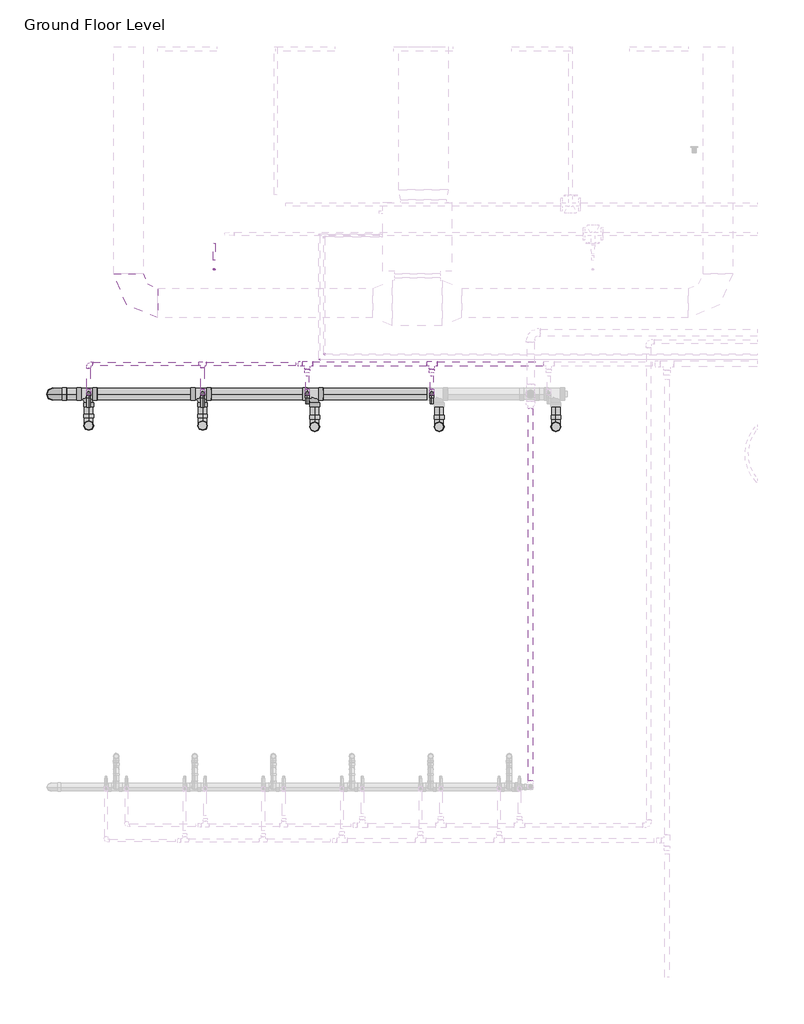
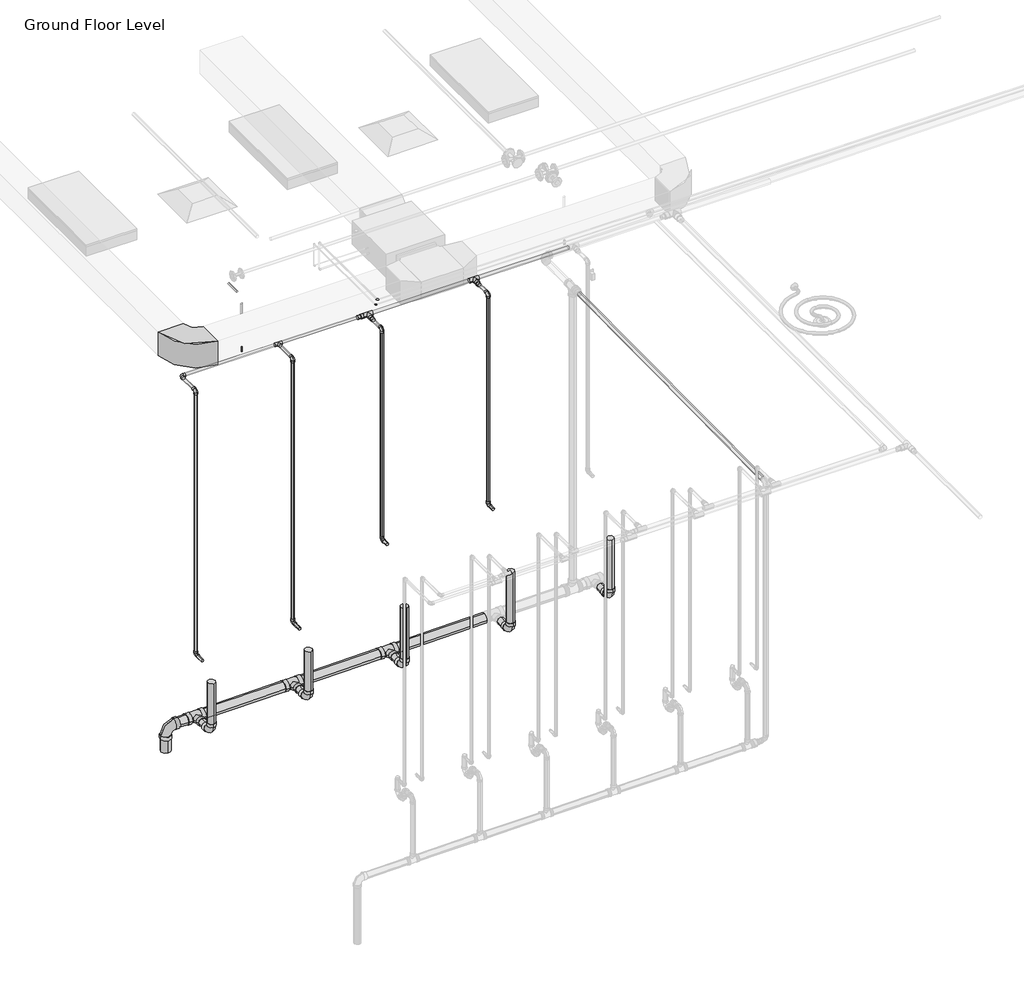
# One storey, part 42 of 74: 34 pipe segments, 26 pipe fittings, 1 duct fitting, 1 fire suppression terminal.
"""IFC4 building model written with IfcOpenShell, lengths in millimetres."""

from ifc_helpers import new_model, si_unit, point, frame, frame_2d, origin, place, context, project, spatial, circle_curve, trimmed, segment, composite_curve, outline, extrude, transform, mapped, element, save
from components import m_rectangular_elbow_radius_1_w_618da153, m_sprinkler_pendent_15_mm_pendent_06fcbd8e, m_bend_pvc_sch_40_dwv_standard_a4b99d37, m_bend_pvc_sch_40_dwv_standard_b7b4a97e, m_elbow_generic_standard_a088f956, m_elbow_generic_standard_2a704253, m_tee_reducing_sanitary_pvc_sch_40_dwv_standard_b49161a9, standard_517a5a8d, standard_ecb2b93d, standard_28db8dab, standard_72b35c3b, standard_08ff6011, standard_d0d0b892

model = new_model("IFC4")

# Units and contexts
model_context = context("Model", 3, world=origin())
ifc_project = project(units=[si_unit("LENGTHUNIT", "METRE", prefix="MILLI")], contexts=[model_context])

# Site, building, storey
site = spatial("IfcSite", under=ifc_project)
building = spatial("IfcBuilding", under=site)
storey = spatial("IfcBuildingStorey", under=building, Name="Ground Floor Level", Elevation=900.0)

# Duct fitting
placement = place(None, origin())
m_rectangular_elbow_radius_1_w_shape = m_rectangular_elbow_radius_1_w_618da153(model_context)
element("IfcDuctFitting", 1, ObjectType="M_Rectangular Elbow - Radius : 1 W", at=placement, inside=storey, context=model_context, shape_type="MappedRepresentation", body=[
    mapped(m_rectangular_elbow_radius_1_w_shape, transform((-20937.2327605, 14069.8153534, 4075.2881511), x_axis=(0.0, -1.0, 0.0), y_axis=(1.0, 0.0, 0.0), z_axis=(0.0, 0.0, 1.0))),
])

# Fire suppression terminal
m_sprinkler_pendent_15_mm_pendent_shape = m_sprinkler_pendent_15_mm_pendent_06fcbd8e(model_context)
element("IfcFireSuppressionTerminal", 2, ObjectType="M_Sprinkler - Pendent : 15 mm Pendent", at=placement, inside=storey, context=model_context, shape_type="MappedRepresentation", body=[
    mapped(m_sprinkler_pendent_15_mm_pendent_shape, transform((-20063.6803933, 14412.7243649, 3650.0), x_axis=(1.0, 0.0, 0.0), y_axis=(0.0, 1.0, 0.0), z_axis=(0.0, 0.0, 1.0))),
])

# Pipe fittings
m_bend_pvc_sch_40_dwv_standard_shape = m_bend_pvc_sch_40_dwv_standard_a4b99d37(model_context)
element("IfcPipeFitting", 3, ObjectType="M_Bend - PVC - Sch 40 - DWV : Standard", at=placement, inside=storey, context=model_context, shape_type="MappedRepresentation", body=[
    mapped(m_bend_pvc_sch_40_dwv_standard_shape, transform((-21343.0428538, 12823.8178806, 203.6352174), x_axis=(0.0, 0.0, -1.0), y_axis=(0.0, 1.0, 0.0), z_axis=(1.0, 0.0, 0.0))),
])
element("IfcPipeFitting", 4, ObjectType="M_Bend - PVC - Sch 40 - DWV : Standard", at=placement, inside=storey, context=model_context, shape_type="MappedRepresentation", body=[
    mapped(m_bend_pvc_sch_40_dwv_standard_shape, transform((-20183.0428538, 12823.8178806, 215.2352174), x_axis=(0.0, 0.0, -1.0), y_axis=(0.0, 1.0, 0.0), z_axis=(1.0, 0.0, 0.0))),
])
element("IfcPipeFitting", 5, ObjectType="M_Bend - PVC - Sch 40 - DWV : Standard", at=placement, inside=storey, context=model_context, shape_type="MappedRepresentation", body=[
    mapped(m_bend_pvc_sch_40_dwv_standard_shape, transform((-19043.0428538, 12811.6726561, 226.6352174), x_axis=(0.0, 0.0, -1.0), y_axis=(0.0, 1.0, 0.0), z_axis=(1.0, 0.0, 0.0))),
])
element("IfcPipeFitting", 6, ObjectType="M_Bend - PVC - Sch 40 - DWV : Standard", at=placement, inside=storey, context=model_context, shape_type="MappedRepresentation", body=[
    mapped(m_bend_pvc_sch_40_dwv_standard_shape, transform((-17775.8329095, 12811.6726561, 239.3073168), x_axis=(0.0, 0.0, -1.0), y_axis=(0.0, 1.0, 0.0), z_axis=(1.0, 0.0, 0.0))),
])
element("IfcPipeFitting", 7, ObjectType="M_Bend - PVC - Sch 40 - DWV : Standard", at=placement, inside=storey, context=model_context, shape_type="MappedRepresentation", body=[
    mapped(m_bend_pvc_sch_40_dwv_standard_shape, transform((-16586.4202262, 12811.6726561, 251.2014437), x_axis=(0.0, 0.0, -1.0), y_axis=(0.0, 1.0, 0.0), z_axis=(1.0, 0.0, 0.0))),
])
m_bend_pvc_sch_40_dwv_standard_2_shape = m_bend_pvc_sch_40_dwv_standard_b7b4a97e(model_context)
element("IfcPipeFitting", 8, ObjectType="M_Bend - PVC - Sch 40 - DWV : Standard", at=placement, inside=storey, context=model_context, shape_type="MappedRepresentation", body=[
    mapped(m_bend_pvc_sch_40_dwv_standard_2_shape, transform((-21707.2327605, 13143.7240477, 200.1933183), x_axis=(0.0, 0.0, 1.0), y_axis=(1.0, 0.0, 0.0), z_axis=(0.0, 1.0, 0.0))),
])
m_elbow_generic_standard_shape = m_elbow_generic_standard_a088f956(model_context)
element("IfcPipeFitting", 9, ObjectType="M_Elbow - Generic : Standard", at=placement, inside=storey, context=model_context, shape_type="MappedRepresentation", body=[
    mapped(m_elbow_generic_standard_shape, transform((-18945.3327605, 13545.2153534, 4380.0), x_axis=(0.0, -1.0, 0.0), y_axis=(1.0, 0.0, 0.0), z_axis=(0.0, 0.0, 1.0))),
])
m_elbow_generic_standard_2_shape = m_elbow_generic_standard_2a704253(model_context)
element("IfcPipeFitting", 10, ObjectType="M_Elbow - Generic : Standard", at=placement, inside=storey, context=model_context, shape_type="MappedRepresentation", body=[
    mapped(m_elbow_generic_standard_2_shape, transform((-18995.0192947, 13494.0185138, 4365.0), x_axis=(0.0, -1.0, 0.0), y_axis=(1.0, 0.0, 0.0), z_axis=(0.0, 0.0, 1.0))),
])
m_tee_reducing_sanitary_pvc_sch_40_dwv_standard_shape = m_tee_reducing_sanitary_pvc_sch_40_dwv_standard_b49161a9(model_context)
element("IfcPipeFitting", 11, ObjectType="M_Tee Reducing Sanitary - PVC - Sch 40 - DWV : Standard", at=placement, inside=storey, context=model_context, shape_type="MappedRepresentation", body=[
    mapped(m_tee_reducing_sanitary_pvc_sch_40_dwv_standard_shape, transform((-21343.0428538, 13143.7240477, 203.6352174), x_axis=(0.9999500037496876, 0.0, 0.009999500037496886), y_axis=(0.0, 1.0, 0.0), z_axis=(-0.009999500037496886, 0.0, 0.9999500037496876))),
])
element("IfcPipeFitting", 12, ObjectType="M_Tee Reducing Sanitary - PVC - Sch 40 - DWV : Standard", at=placement, inside=storey, context=model_context, shape_type="MappedRepresentation", body=[
    mapped(m_tee_reducing_sanitary_pvc_sch_40_dwv_standard_shape, transform((-20183.0428538, 13143.7240477, 215.2352174), x_axis=(0.9999500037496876, 0.0, 0.009999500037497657), y_axis=(0.0, 1.0, 0.0), z_axis=(-0.009999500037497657, 0.0, 0.9999500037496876))),
])
element("IfcPipeFitting", 13, ObjectType="M_Tee Reducing Sanitary - PVC - Sch 40 - DWV : Standard", at=placement, inside=storey, context=model_context, shape_type="MappedRepresentation", body=[
    mapped(m_tee_reducing_sanitary_pvc_sch_40_dwv_standard_shape, transform((-19043.0428538, 13143.7240477, 226.6352174), x_axis=(0.9999500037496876, 0.0, 0.009999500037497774), y_axis=(0.0, 1.0000000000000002, 0.0), z_axis=(-0.009999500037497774, 0.0, 0.9999500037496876))),
])
standard_shape = standard_517a5a8d(model_context)
element("IfcPipeFitting", 14, ObjectType="M_Elbow - CPVC - Sch 40 : Standard", at=placement, inside=storey, context=model_context, shape_type="MappedRepresentation", body=[
    mapped(standard_shape, transform((-21343.0428538, 13149.9865561, 4315.0), x_axis=(0.0, 0.0, 1.0), y_axis=(0.0, 1.0, 0.0), z_axis=(-1.0, 0.0, 0.0))),
])
element("IfcPipeFitting", 15, ObjectType="M_Elbow - CPVC - Sch 40 : Standard", at=placement, inside=storey, context=model_context, shape_type="MappedRepresentation", body=[
    mapped(standard_shape, transform((-20183.0428538, 13149.9865561, 4315.0), x_axis=(0.0, 0.0, 1.0), y_axis=(0.0, 1.0, 0.0), z_axis=(-1.0, 0.0, 0.0))),
])
element("IfcPipeFitting", 16, ObjectType="M_Elbow - CPVC - Sch 40 : Standard", at=placement, inside=storey, context=model_context, shape_type="MappedRepresentation", body=[
    mapped(standard_shape, transform((-19116.48162, 13149.9865561, 1655.0), x_axis=(0.0, 1.0, 0.0), y_axis=(0.0, 0.0, 1.0), z_axis=(1.0, 0.0, 0.0))),
])
element("IfcPipeFitting", 17, ObjectType="M_Elbow - CPVC - Sch 40 : Standard", at=placement, inside=storey, context=model_context, shape_type="MappedRepresentation", body=[
    mapped(standard_shape, transform((-19116.48162, 13149.9865561, 4315.0), x_axis=(0.0, 0.0, 1.0), y_axis=(0.0, 1.0, 0.0), z_axis=(-1.0, 0.0, 0.0))),
])
element("IfcPipeFitting", 18, ObjectType="M_Elbow - CPVC - Sch 40 : Standard", at=placement, inside=storey, context=model_context, shape_type="MappedRepresentation", body=[
    mapped(standard_shape, transform((-17849.2716757, 13149.9865561, 4315.0), x_axis=(0.0, 0.0, 1.0), y_axis=(0.0, 1.0, 0.0), z_axis=(-1.0, 0.0, 0.0))),
])
element("IfcPipeFitting", 19, ObjectType="M_Elbow - CPVC - Sch 40 : Standard", at=placement, inside=storey, context=model_context, shape_type="MappedRepresentation", body=[
    mapped(standard_shape, transform((-17849.2716757, 13149.9865561, 1655.0), x_axis=(0.0, 0.0, -1.0), y_axis=(0.0, -1.0, 0.0), z_axis=(-1.0, 0.0, 0.0))),
])
element("IfcPipeFitting", 20, ObjectType="M_Elbow - CPVC - Sch 40 : Standard", at=placement, inside=storey, context=model_context, shape_type="MappedRepresentation", body=[
    mapped(standard_shape, transform((-21343.0428538, 13449.9865561, 4315.0), x_axis=(-1.0, 0.0, 0.0), y_axis=(0.0, -1.0, 0.0), z_axis=(0.0, 0.0, 1.0))),
])
standard_2_shape = standard_ecb2b93d(model_context)
element("IfcPipeFitting", 21, ObjectType="M_Elbow - CPVC - Sch 40 : Standard", at=placement, inside=storey, context=model_context, shape_type="MappedRepresentation", body=[
    mapped(standard_2_shape, transform((-21343.0428538, 13149.9865561, 983.5000035), x_axis=(0.0, 0.9999999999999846, 1.7577295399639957e-07), y_axis=(0.0, -1.7577295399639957e-07, 0.9999999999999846), z_axis=(1.0, 0.0, 0.0))),
])
standard_3_shape = standard_28db8dab(model_context)
element("IfcPipeFitting", 22, ObjectType="M_Elbow - CPVC - Sch 40 : Standard", at=placement, inside=storey, context=model_context, shape_type="MappedRepresentation", body=[
    mapped(standard_3_shape, transform((-20183.0428538, 13149.9865561, 983.4999984), x_axis=(0.0, 0.0, -1.0), y_axis=(0.0, -1.0, 0.0), z_axis=(-1.0, 0.0, 0.0))),
])
standard_4_shape = standard_72b35c3b(model_context)
element("IfcPipeFitting", 23, ObjectType="M_Tee - CPVC - Sch 40 : Standard", at=placement, inside=storey, context=model_context, shape_type="MappedRepresentation", body=[
    mapped(standard_4_shape, transform((-20183.0428538, 13449.9865561, 4315.0), x_axis=(-1.0, 0.0, 0.0), y_axis=(0.0, 1.0, 0.0), z_axis=(0.0, 0.0, -1.0))),
])
standard_5_shape = standard_08ff6011(model_context)
element("IfcPipeFitting", 24, ObjectType="M_Tee - CPVC - Sch 40 : Standard", at=placement, inside=storey, context=model_context, shape_type="MappedRepresentation", body=[
    mapped(standard_5_shape, transform((-19116.48162, 13449.9865561, 4315.0), x_axis=(-1.0, 0.0, 0.0), y_axis=(0.0, 1.0, 0.0), z_axis=(0.0, 0.0, -1.0))),
])
element("IfcPipeFitting", 25, ObjectType="M_Tee - CPVC - Sch 40 : Standard", at=placement, inside=storey, context=model_context, shape_type="MappedRepresentation", body=[
    mapped(standard_5_shape, transform((-17849.2716757, 13449.9865561, 4315.0), x_axis=(-1.0, 0.0, 0.0), y_axis=(0.0, 1.0, 0.0), z_axis=(0.0, 0.0, -1.0))),
])
standard_6_shape = standard_d0d0b892(model_context)
element("IfcPipeFitting", 26, ObjectType="M_Coupling Reducing - CPVC - Sch 40 : Standard", at=placement, inside=storey, context=model_context, shape_type="MappedRepresentation", body=[
    mapped(standard_6_shape, transform((-19116.48162, 13396.0115561, 4315.0), x_axis=(0.0, -1.0, 0.0), y_axis=(1.0, 0.0, 0.0), z_axis=(0.0, 0.0, 1.0))),
])
element("IfcPipeFitting", 27, ObjectType="M_Coupling Reducing - CPVC - Sch 40 : Standard", at=placement, inside=storey, context=model_context, shape_type="MappedRepresentation", body=[
    mapped(standard_6_shape, transform((-17849.2716757, 13396.0115561, 4315.0), x_axis=(0.0, -1.0, 0.0), y_axis=(1.0, 0.0, 0.0), z_axis=(0.0, 0.0, 1.0))),
])
element("IfcPipeFitting", 28, ObjectType="M_Coupling Reducing - CPVC - Sch 40 : Standard", at=placement, inside=storey, context=model_context, shape_type="MappedRepresentation", body=[
    mapped(standard_6_shape, transform((-19170.45662, 13449.9865561, 4315.0), x_axis=(-1.0, 0.0, 0.0), y_axis=(0.0, -1.0, 0.0), z_axis=(0.0, 0.0, 1.0))),
])

# Pipe segments
element("IfcPipeSegment", 29, ObjectType="CPVC", at=placement, inside=storey, context=model_context, shape_type="SweptSolid", body=[
    extrude(outline(composite_curve([segment(trimmed(circle_curve(frame_2d((983.4999789, -21343.0428538)), 16.7005), [point((983.4999789, -21326.3423538))], [point((1000.2004789, -21343.0428538))], False, "CARTESIAN"), True, "CONTINUOUS"), segment(trimmed(circle_curve(frame_2d((983.4999789, -21343.0428538)), 16.7005), [point((1000.2004789, -21343.0428538))], [point((983.4999789, -21359.7433538))], False, "CARTESIAN"), True, "CONTINUOUS"), segment(trimmed(circle_curve(frame_2d((983.4999789, -21343.0428538)), 16.7005), [point((983.4999789, -21359.7433538))], [point((966.7994789, -21343.0428538))], False, "CARTESIAN"), True, "CONTINUOUS"), segment(trimmed(circle_curve(frame_2d((983.4999789, -21343.0428538)), 16.7005), [point((966.7994789, -21343.0428538))], [point((983.4999789, -21326.3423538))], False, "CARTESIAN"), True, "CONTINUOUS")], self_intersect=False)), frame((0.0, 13009.9865561, 0.0), z_axis=(0.0, 1.0, 0.0), x_axis=(0.0, 0.0, 1.0)), (0.0, 0.0, 1.0), 96.7374537),
])
element("IfcPipeSegment", 30, ObjectType="CPVC", at=placement, inside=storey, context=model_context, shape_type="SweptSolid", body=[
    extrude(outline(composite_curve([segment(trimmed(circle_curve(frame_2d((4315.0, -21343.0428538)), 16.7005), [point((4315.0, -21326.3423538))], [point((4331.7005, -21343.0428538))], False, "CARTESIAN"), True, "CONTINUOUS"), segment(trimmed(circle_curve(frame_2d((4315.0, -21343.0428538)), 16.7005), [point((4331.7005, -21343.0428538))], [point((4315.0, -21359.7433538))], False, "CARTESIAN"), True, "CONTINUOUS"), segment(trimmed(circle_curve(frame_2d((4315.0, -21343.0428538)), 16.7005), [point((4315.0, -21359.7433538))], [point((4298.2995, -21343.0428538))], False, "CARTESIAN"), True, "CONTINUOUS"), segment(trimmed(circle_curve(frame_2d((4315.0, -21343.0428538)), 16.7005), [point((4298.2995, -21343.0428538))], [point((4315.0, -21326.3423538))], False, "CARTESIAN"), True, "CONTINUOUS")], self_intersect=False)), frame((0.0, 13193.2491061, 0.0), z_axis=(0.0, 1.0, 0.0), x_axis=(0.0, 0.0, 1.0)), (0.0, 0.0, 1.0), 213.4749),
])
element("IfcPipeSegment", 31, ObjectType="CPVC", at=placement, inside=storey, context=model_context, shape_type="SweptSolid", body=[
    extrude(outline(composite_curve([segment(trimmed(circle_curve(frame_2d((-21343.0428538, 13149.9865561)), 16.7005), [point((-21359.7433538, 13149.9865561))], [point((-21343.0428538, 13166.6870561))], False, "CARTESIAN"), True, "CONTINUOUS"), segment(trimmed(circle_curve(frame_2d((-21343.0428538, 13149.9865561)), 16.7005), [point((-21343.0428538, 13166.6870561))], [point((-21326.3423538, 13149.9865561))], False, "CARTESIAN"), True, "CONTINUOUS"), segment(trimmed(circle_curve(frame_2d((-21343.0428538, 13149.9865561)), 16.7005), [point((-21326.3423538, 13149.9865561))], [point((-21343.0428538, 13133.2860561))], False, "CARTESIAN"), True, "CONTINUOUS"), segment(trimmed(circle_curve(frame_2d((-21343.0428538, 13149.9865561)), 16.7005), [point((-21343.0428538, 13133.2860561))], [point((-21359.7433538, 13149.9865561))], False, "CARTESIAN"), True, "CONTINUOUS")], self_intersect=False)), frame((0.0, 0.0, 1026.7625498), z_axis=(0.0, 0.0, 1.0), x_axis=(1.0, 0.0, 0.0)), (0.0, 0.0, 1.0), 3244.9749002),
])
element("IfcPipeSegment", 32, ObjectType="CPVC", at=placement, inside=storey, context=model_context, shape_type="SweptSolid", body=[
    extrude(outline(composite_curve([segment(trimmed(circle_curve(frame_2d((983.4999924, -20183.0428538)), 16.7005), [point((983.4999924, -20199.7433538))], [point((966.7994924, -20183.0428538))], False, "CARTESIAN"), True, "CONTINUOUS"), segment(trimmed(circle_curve(frame_2d((983.4999924, -20183.0428538)), 16.7005), [point((966.7994924, -20183.0428538))], [point((983.4999924, -20166.3423538))], False, "CARTESIAN"), True, "CONTINUOUS"), segment(trimmed(circle_curve(frame_2d((983.4999924, -20183.0428538)), 16.7005), [point((983.4999924, -20166.3423538))], [point((1000.2004924, -20183.0428538))], False, "CARTESIAN"), True, "CONTINUOUS"), segment(trimmed(circle_curve(frame_2d((983.4999924, -20183.0428538)), 16.7005), [point((1000.2004924, -20183.0428538))], [point((983.4999924, -20199.7433538))], False, "CARTESIAN"), True, "CONTINUOUS")], self_intersect=False)), frame((0.0, 13009.9865561, 0.0), z_axis=(0.0, 1.0, 0.0), x_axis=(0.0, 0.0, 1.0)), (0.0, 0.0, 1.0), 96.7374529),
])
element("IfcPipeSegment", 33, ObjectType="CPVC", at=placement, inside=storey, context=model_context, shape_type="SweptSolid", body=[
    extrude(outline(composite_curve([segment(trimmed(circle_curve(frame_2d((-20183.0428538, 13149.9865561)), 16.7005), [point((-20199.7433538, 13149.9865561))], [point((-20183.0428538, 13166.6870561))], False, "CARTESIAN"), True, "CONTINUOUS"), segment(trimmed(circle_curve(frame_2d((-20183.0428538, 13149.9865561)), 16.7005), [point((-20183.0428538, 13166.6870561))], [point((-20166.3423538, 13149.9865561))], False, "CARTESIAN"), True, "CONTINUOUS"), segment(trimmed(circle_curve(frame_2d((-20183.0428538, 13149.9865561)), 16.7005), [point((-20166.3423538, 13149.9865561))], [point((-20183.0428538, 13133.2860561))], False, "CARTESIAN"), True, "CONTINUOUS"), segment(trimmed(circle_curve(frame_2d((-20183.0428538, 13149.9865561)), 16.7005), [point((-20183.0428538, 13133.2860561))], [point((-20199.7433538, 13149.9865561))], False, "CARTESIAN"), True, "CONTINUOUS")], self_intersect=False)), frame((0.0, 0.0, 1026.7625455), z_axis=(0.0, 0.0, 1.0), x_axis=(1.0, 0.0, 0.0)), (0.0, 0.0, 1.0), 3244.9749045),
])
element("IfcPipeSegment", 34, ObjectType="CPVC", at=placement, inside=storey, context=model_context, shape_type="SweptSolid", body=[
    extrude(outline(composite_curve([segment(trimmed(circle_curve(frame_2d((1655.0, -19116.48162)), 16.7005), [point((1655.0, -19099.78112))], [point((1671.7005, -19116.48162))], False, "CARTESIAN"), True, "CONTINUOUS"), segment(trimmed(circle_curve(frame_2d((1655.0, -19116.48162)), 16.7005), [point((1671.7005, -19116.48162))], [point((1655.0, -19133.18212))], False, "CARTESIAN"), True, "CONTINUOUS"), segment(trimmed(circle_curve(frame_2d((1655.0, -19116.48162)), 16.7005), [point((1655.0, -19133.18212))], [point((1638.2995, -19116.48162))], False, "CARTESIAN"), True, "CONTINUOUS"), segment(trimmed(circle_curve(frame_2d((1655.0, -19116.48162)), 16.7005), [point((1638.2995, -19116.48162))], [point((1655.0, -19099.78112))], False, "CARTESIAN"), True, "CONTINUOUS")], self_intersect=False)), frame((0.0, 13045.2153534, 0.0), z_axis=(0.0, 1.0, 0.0), x_axis=(0.0, 0.0, 1.0)), (0.0, 0.0, 1.0), 61.5086528),
])
element("IfcPipeSegment", 35, ObjectType="CPVC", at=placement, inside=storey, context=model_context, shape_type="SweptSolid", body=[
    extrude(outline(composite_curve([segment(trimmed(circle_curve(frame_2d((-19116.48162, 13149.9865561)), 16.7005), [point((-19133.18212, 13149.9865561))], [point((-19116.48162, 13166.6870561))], False, "CARTESIAN"), True, "CONTINUOUS"), segment(trimmed(circle_curve(frame_2d((-19116.48162, 13149.9865561)), 16.7005), [point((-19116.48162, 13166.6870561))], [point((-19099.78112, 13149.9865561))], False, "CARTESIAN"), True, "CONTINUOUS"), segment(trimmed(circle_curve(frame_2d((-19116.48162, 13149.9865561)), 16.7005), [point((-19099.78112, 13149.9865561))], [point((-19116.48162, 13133.2860561))], False, "CARTESIAN"), True, "CONTINUOUS"), segment(trimmed(circle_curve(frame_2d((-19116.48162, 13149.9865561)), 16.7005), [point((-19116.48162, 13133.2860561))], [point((-19133.18212, 13149.9865561))], False, "CARTESIAN"), True, "CONTINUOUS")], self_intersect=False)), frame((0.0, 0.0, 1698.26255), z_axis=(0.0, 0.0, 1.0), x_axis=(1.0, 0.0, 0.0)), (0.0, 0.0, 1.0), 2573.4749),
])
element("IfcPipeSegment", 36, ObjectType="CPVC", at=placement, inside=storey, context=model_context, shape_type="SweptSolid", body=[
    extrude(outline(composite_curve([segment(trimmed(circle_curve(frame_2d((1655.0, -17849.2716757)), 16.7005), [point((1655.0, -17865.9721757))], [point((1638.2995, -17849.2716757))], False, "CARTESIAN"), True, "CONTINUOUS"), segment(trimmed(circle_curve(frame_2d((1655.0, -17849.2716757)), 16.7005), [point((1638.2995, -17849.2716757))], [point((1655.0, -17832.5711757))], False, "CARTESIAN"), True, "CONTINUOUS"), segment(trimmed(circle_curve(frame_2d((1655.0, -17849.2716757)), 16.7005), [point((1655.0, -17832.5711757))], [point((1671.7005, -17849.2716757))], False, "CARTESIAN"), True, "CONTINUOUS"), segment(trimmed(circle_curve(frame_2d((1655.0, -17849.2716757)), 16.7005), [point((1671.7005, -17849.2716757))], [point((1655.0, -17865.9721757))], False, "CARTESIAN"), True, "CONTINUOUS")], self_intersect=False)), frame((0.0, 13045.2153534, 0.0), z_axis=(0.0, 1.0, 0.0), x_axis=(0.0, 0.0, 1.0)), (0.0, 0.0, 1.0), 61.5086528),
])
element("IfcPipeSegment", 37, ObjectType="CPVC", at=placement, inside=storey, context=model_context, shape_type="SweptSolid", body=[
    extrude(outline(composite_curve([segment(trimmed(circle_curve(frame_2d((-17849.2716757, 13149.9865561)), 16.7005), [point((-17865.9721757, 13149.9865561))], [point((-17849.2716757, 13166.6870561))], False, "CARTESIAN"), True, "CONTINUOUS"), segment(trimmed(circle_curve(frame_2d((-17849.2716757, 13149.9865561)), 16.7005), [point((-17849.2716757, 13166.6870561))], [point((-17832.5711757, 13149.9865561))], False, "CARTESIAN"), True, "CONTINUOUS"), segment(trimmed(circle_curve(frame_2d((-17849.2716757, 13149.9865561)), 16.7005), [point((-17832.5711757, 13149.9865561))], [point((-17849.2716757, 13133.2860561))], False, "CARTESIAN"), True, "CONTINUOUS"), segment(trimmed(circle_curve(frame_2d((-17849.2716757, 13149.9865561)), 16.7005), [point((-17849.2716757, 13133.2860561))], [point((-17865.9721757, 13149.9865561))], False, "CARTESIAN"), True, "CONTINUOUS")], self_intersect=False)), frame((0.0, 0.0, 1698.26255), z_axis=(0.0, 0.0, 1.0), x_axis=(1.0, 0.0, 0.0)), (0.0, 0.0, 1.0), 2573.4749),
])
element("IfcPipeSegment", 38, ObjectType="CPVC", at=placement, inside=storey, context=model_context, shape_type="SweptSolid", body=[
    extrude(outline(composite_curve([segment(trimmed(circle_curve(frame_2d((13449.9865561, 4315.0)), 16.7005), [point((13433.2860561, 4315.0))], [point((13449.9865561, 4331.7005))], False, "CARTESIAN"), True, "CONTINUOUS"), segment(trimmed(circle_curve(frame_2d((13449.9865561, 4315.0)), 16.7005), [point((13449.9865561, 4331.7005))], [point((13466.6870561, 4315.0))], False, "CARTESIAN"), True, "CONTINUOUS"), segment(trimmed(circle_curve(frame_2d((13449.9865561, 4315.0)), 16.7005), [point((13466.6870561, 4315.0))], [point((13449.9865561, 4298.2995))], False, "CARTESIAN"), True, "CONTINUOUS"), segment(trimmed(circle_curve(frame_2d((13449.9865561, 4315.0)), 16.7005), [point((13449.9865561, 4298.2995))], [point((13433.2860561, 4315.0))], False, "CARTESIAN"), True, "CONTINUOUS")], self_intersect=False)), frame((-21299.7803038, 0.0, 0.0), z_axis=(1.0, 0.0, 0.0), x_axis=(0.0, 1.0, 0.0)), (0.0, 0.0, 1.0), 1077.03725),
])
element("IfcPipeSegment", 39, ObjectType="CPVC", at=placement, inside=storey, context=model_context, shape_type="SweptSolid", body=[
    extrude(outline(composite_curve([segment(trimmed(circle_curve(frame_2d((4315.0, -20183.0428538)), 16.7005), [point((4315.0, -20166.3423538))], [point((4331.7005, -20183.0428538))], False, "CARTESIAN"), True, "CONTINUOUS"), segment(trimmed(circle_curve(frame_2d((4315.0, -20183.0428538)), 16.7005), [point((4331.7005, -20183.0428538))], [point((4315.0, -20199.7433538))], False, "CARTESIAN"), True, "CONTINUOUS"), segment(trimmed(circle_curve(frame_2d((4315.0, -20183.0428538)), 16.7005), [point((4315.0, -20199.7433538))], [point((4298.2995, -20183.0428538))], False, "CARTESIAN"), True, "CONTINUOUS"), segment(trimmed(circle_curve(frame_2d((4315.0, -20183.0428538)), 16.7005), [point((4298.2995, -20183.0428538))], [point((4315.0, -20166.3423538))], False, "CARTESIAN"), True, "CONTINUOUS")], self_intersect=False)), frame((0.0, 13193.2491061, 0.0), z_axis=(0.0, 1.0, 0.0), x_axis=(0.0, 0.0, 1.0)), (0.0, 0.0, 1.0), 217.03725),
])
element("IfcPipeSegment", 40, ObjectType="CPVC", at=placement, inside=storey, context=model_context, shape_type="SweptSolid", body=[
    extrude(outline(composite_curve([segment(trimmed(circle_curve(frame_2d((13449.9865561, 4315.0)), 16.7005), [point((13433.2860561, 4315.0))], [point((13449.9865561, 4331.7005))], False, "CARTESIAN"), True, "CONTINUOUS"), segment(trimmed(circle_curve(frame_2d((13449.9865561, 4315.0)), 16.7005), [point((13449.9865561, 4331.7005))], [point((13466.6870561, 4315.0))], False, "CARTESIAN"), True, "CONTINUOUS"), segment(trimmed(circle_curve(frame_2d((13449.9865561, 4315.0)), 16.7005), [point((13466.6870561, 4315.0))], [point((13449.9865561, 4298.2995))], False, "CARTESIAN"), True, "CONTINUOUS"), segment(trimmed(circle_curve(frame_2d((13449.9865561, 4315.0)), 16.7005), [point((13449.9865561, 4298.2995))], [point((13433.2860561, 4315.0))], False, "CARTESIAN"), True, "CONTINUOUS")], self_intersect=False)), frame((-20143.3426538, 0.0, 0.0), z_axis=(1.0, 0.0, 0.0), x_axis=(0.0, 1.0, 0.0)), (0.0, 0.0, 1.0), 906.7671588),
])
element("IfcPipeSegment", 41, ObjectType="CPVC", at=placement, inside=storey, context=model_context, shape_type="SweptSolid", body=[
    extrude(outline(composite_curve([segment(trimmed(circle_curve(frame_2d((4315.0, -19116.48162)), 16.7005), [point((4315.0, -19099.78112))], [point((4331.7005, -19116.48162))], False, "CARTESIAN"), True, "CONTINUOUS"), segment(trimmed(circle_curve(frame_2d((4315.0, -19116.48162)), 16.7005), [point((4331.7005, -19116.48162))], [point((4315.0, -19133.18212))], False, "CARTESIAN"), True, "CONTINUOUS"), segment(trimmed(circle_curve(frame_2d((4315.0, -19116.48162)), 16.7005), [point((4315.0, -19133.18212))], [point((4298.2995, -19116.48162))], False, "CARTESIAN"), True, "CONTINUOUS"), segment(trimmed(circle_curve(frame_2d((4315.0, -19116.48162)), 16.7005), [point((4298.2995, -19116.48162))], [point((4315.0, -19099.78112))], False, "CARTESIAN"), True, "CONTINUOUS")], self_intersect=False)), frame((0.0, 13193.2491061, 0.0), z_axis=(0.0, 1.0, 0.0), x_axis=(0.0, 0.0, 1.0)), (0.0, 0.0, 1.0), 136.643575),
])
element("IfcPipeSegment", 42, ObjectType="CPVC", at=placement, inside=storey, context=model_context, shape_type="SweptSolid", body=[
    extrude(outline(composite_curve([segment(trimmed(circle_curve(frame_2d((13449.9865561, 4315.0)), 21.082), [point((13428.9045561, 4315.0))], [point((13449.9865561, 4336.082))], False, "CARTESIAN"), True, "CONTINUOUS"), segment(trimmed(circle_curve(frame_2d((13449.9865561, 4315.0)), 21.082), [point((13449.9865561, 4336.082))], [point((13471.0685561, 4315.0))], False, "CARTESIAN"), True, "CONTINUOUS"), segment(trimmed(circle_curve(frame_2d((13449.9865561, 4315.0)), 21.082), [point((13471.0685561, 4315.0))], [point((13449.9865561, 4293.918))], False, "CARTESIAN"), True, "CONTINUOUS"), segment(trimmed(circle_curve(frame_2d((13449.9865561, 4315.0)), 21.082), [point((13449.9865561, 4293.918))], [point((13428.9045561, 4315.0))], False, "CARTESIAN"), True, "CONTINUOUS")], self_intersect=False)), frame((-19062.50662, 0.0, 0.0), z_axis=(1.0, 0.0, 0.0), x_axis=(0.0, 1.0, 0.0)), (0.0, 0.0, 1.0), 1159.2599443),
])
element("IfcPipeSegment", 43, ObjectType="CPVC", at=placement, inside=storey, context=model_context, shape_type="SweptSolid", body=[
    extrude(outline(composite_curve([segment(trimmed(circle_curve(frame_2d((4315.0, -17849.2716757)), 16.7005), [point((4315.0, -17832.5711757))], [point((4331.7005, -17849.2716757))], False, "CARTESIAN"), True, "CONTINUOUS"), segment(trimmed(circle_curve(frame_2d((4315.0, -17849.2716757)), 16.7005), [point((4331.7005, -17849.2716757))], [point((4315.0, -17865.9721757))], False, "CARTESIAN"), True, "CONTINUOUS"), segment(trimmed(circle_curve(frame_2d((4315.0, -17849.2716757)), 16.7005), [point((4315.0, -17865.9721757))], [point((4298.2995, -17849.2716757))], False, "CARTESIAN"), True, "CONTINUOUS"), segment(trimmed(circle_curve(frame_2d((4315.0, -17849.2716757)), 16.7005), [point((4298.2995, -17849.2716757))], [point((4315.0, -17832.5711757))], False, "CARTESIAN"), True, "CONTINUOUS")], self_intersect=False)), frame((0.0, 13193.2491061, 0.0), z_axis=(0.0, 1.0, 0.0), x_axis=(0.0, 0.0, 1.0)), (0.0, 0.0, 1.0), 136.643575),
])
element("IfcPipeSegment", 44, ObjectType="CPVC", at=placement, inside=storey, context=model_context, shape_type="SweptSolid", body=[
    extrude(outline(composite_curve([segment(trimmed(circle_curve(frame_2d((13449.9865561, 4315.0)), 21.082), [point((13428.9045561, 4315.0))], [point((13449.9865561, 4336.082))], False, "CARTESIAN"), True, "CONTINUOUS"), segment(trimmed(circle_curve(frame_2d((13449.9865561, 4315.0)), 21.082), [point((13449.9865561, 4336.082))], [point((13471.0685561, 4315.0))], False, "CARTESIAN"), True, "CONTINUOUS"), segment(trimmed(circle_curve(frame_2d((13449.9865561, 4315.0)), 21.082), [point((13471.0685561, 4315.0))], [point((13449.9865561, 4293.918))], False, "CARTESIAN"), True, "CONTINUOUS"), segment(trimmed(circle_curve(frame_2d((13449.9865561, 4315.0)), 21.082), [point((13449.9865561, 4293.918))], [point((13428.9045561, 4315.0))], False, "CARTESIAN"), True, "CONTINUOUS")], self_intersect=False)), frame((-17795.2966757, 0.0, 0.0), z_axis=(1.0, 0.0, 0.0), x_axis=(0.0, 1.0, 0.0)), (0.0, 0.0, 1.0), 1081.4626833),
])
element("IfcPipeSegment", 45, ObjectType="PVC - DWV", at=placement, inside=storey, context=model_context, shape_type="SweptSolid", body=[
    extrude(outline(composite_curve([segment(trimmed(circle_curve(frame_2d((-21343.0428538, 12823.8178806)), 44.45), [point((-21298.5928538, 12823.8178806))], [point((-21343.0428538, 12779.3678806))], False, "CARTESIAN"), True, "CONTINUOUS"), segment(trimmed(circle_curve(frame_2d((-21343.0428538, 12823.8178806)), 44.45), [point((-21343.0428538, 12779.3678806))], [point((-21387.4928538, 12823.8178806))], False, "CARTESIAN"), True, "CONTINUOUS"), segment(trimmed(circle_curve(frame_2d((-21343.0428538, 12823.8178806)), 44.45), [point((-21387.4928538, 12823.8178806))], [point((-21343.0428538, 12868.2678806))], False, "CARTESIAN"), True, "CONTINUOUS"), segment(trimmed(circle_curve(frame_2d((-21343.0428538, 12823.8178806)), 44.45), [point((-21343.0428538, 12868.2678806))], [point((-21298.5928538, 12823.8178806))], False, "CARTESIAN"), True, "CONTINUOUS")], self_intersect=False)), frame((0.0, 0.0, 319.5354174), z_axis=(0.0, 0.0, 1.0), x_axis=(1.0, 0.0, 0.0)), (0.0, 0.0, 1.0), 511.1329592),
])
element("IfcPipeSegment", 46, ObjectType="PVC - DWV", at=placement, inside=storey, context=model_context, shape_type="SweptSolid", body=[
    extrude(outline(composite_curve([segment(trimmed(circle_curve(frame_2d((203.6352174, -21343.0428538)), 44.45), [point((203.6352174, -21298.5928538))], [point((248.0852174, -21343.0428538))], False, "CARTESIAN"), True, "CONTINUOUS"), segment(trimmed(circle_curve(frame_2d((203.6352174, -21343.0428538)), 44.45), [point((248.0852174, -21343.0428538))], [point((203.6352174, -21387.4928538))], False, "CARTESIAN"), True, "CONTINUOUS"), segment(trimmed(circle_curve(frame_2d((203.6352174, -21343.0428538)), 44.45), [point((203.6352174, -21387.4928538))], [point((159.1852174, -21343.0428538))], False, "CARTESIAN"), True, "CONTINUOUS"), segment(trimmed(circle_curve(frame_2d((203.6352174, -21343.0428538)), 44.45), [point((159.1852174, -21343.0428538))], [point((203.6352174, -21298.5928538))], False, "CARTESIAN"), True, "CONTINUOUS")], self_intersect=False)), frame((0.0, 12939.7180806, 0.0), z_axis=(0.0, 1.0, 0.0), x_axis=(0.0, 0.0, 1.0)), (0.0, 0.0, 1.0), 75.4057671),
])
element("IfcPipeSegment", 47, ObjectType="PVC - DWV", at=placement, inside=storey, context=model_context, shape_type="SweptSolid", body=[
    extrude(outline(composite_curve([segment(trimmed(circle_curve(frame_2d((0.0, -57.15)), 57.15), [point((0.0, 0.0))], [point((57.15, -57.15))], False, "CARTESIAN"), True, "CONTINUOUS"), segment(trimmed(circle_curve(frame_2d((0.0, -57.15)), 57.15), [point((57.15, -57.15))], [point((0.0, -114.3))], False, "CARTESIAN"), True, "CONTINUOUS"), segment(trimmed(circle_curve(frame_2d((0.0, -57.15)), 57.15), [point((0.0, -114.3))], [point((-57.15, -57.15))], False, "CARTESIAN"), True, "CONTINUOUS"), segment(trimmed(circle_curve(frame_2d((0.0, -57.15)), 57.15), [point((-57.15, -57.15))], [point((0.0, 0.0))], False, "CARTESIAN"), True, "CONTINUOUS")], self_intersect=False)), frame((-21564.3649037, 13200.8740477, 201.6219969), z_axis=(0.9999500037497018, 0.0, 0.00999950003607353), x_axis=(0.00999950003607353, 0.0, -0.9999500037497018)), (0.0, 0.0, 1.0), 100.6811159),
])
element("IfcPipeSegment", 48, ObjectType="PVC - DWV", at=placement, inside=storey, context=model_context, shape_type="SweptSolid", body=[
    extrude(outline(composite_curve([segment(trimmed(circle_curve(frame_2d((-20183.0428538, 12823.8178806)), 44.45), [point((-20138.5928538, 12823.8178806))], [point((-20183.0428538, 12779.3678806))], False, "CARTESIAN"), True, "CONTINUOUS"), segment(trimmed(circle_curve(frame_2d((-20183.0428538, 12823.8178806)), 44.45), [point((-20183.0428538, 12779.3678806))], [point((-20227.4928538, 12823.8178806))], False, "CARTESIAN"), True, "CONTINUOUS"), segment(trimmed(circle_curve(frame_2d((-20183.0428538, 12823.8178806)), 44.45), [point((-20227.4928538, 12823.8178806))], [point((-20183.0428538, 12868.2678806))], False, "CARTESIAN"), True, "CONTINUOUS"), segment(trimmed(circle_curve(frame_2d((-20183.0428538, 12823.8178806)), 44.45), [point((-20183.0428538, 12868.2678806))], [point((-20138.5928538, 12823.8178806))], False, "CARTESIAN"), True, "CONTINUOUS")], self_intersect=False)), frame((0.0, 0.0, 331.1354174), z_axis=(0.0, 0.0, 1.0), x_axis=(1.0, 0.0, 0.0)), (0.0, 0.0, 1.0), 499.5329592),
])
element("IfcPipeSegment", 49, ObjectType="PVC - DWV", at=placement, inside=storey, context=model_context, shape_type="SweptSolid", body=[
    extrude(outline(composite_curve([segment(trimmed(circle_curve(frame_2d((215.2352174, -20183.0428538)), 44.45), [point((215.2352174, -20138.5928538))], [point((259.6852174, -20183.0428538))], False, "CARTESIAN"), True, "CONTINUOUS"), segment(trimmed(circle_curve(frame_2d((215.2352174, -20183.0428538)), 44.45), [point((259.6852174, -20183.0428538))], [point((215.2352174, -20227.4928538))], False, "CARTESIAN"), True, "CONTINUOUS"), segment(trimmed(circle_curve(frame_2d((215.2352174, -20183.0428538)), 44.45), [point((215.2352174, -20227.4928538))], [point((170.7852174, -20183.0428538))], False, "CARTESIAN"), True, "CONTINUOUS"), segment(trimmed(circle_curve(frame_2d((215.2352174, -20183.0428538)), 44.45), [point((170.7852174, -20183.0428538))], [point((215.2352174, -20138.5928538))], False, "CARTESIAN"), True, "CONTINUOUS")], self_intersect=False)), frame((0.0, 12939.7180806, 0.0), z_axis=(0.0, 1.0, 0.0), x_axis=(0.0, 0.0, 1.0)), (0.0, 0.0, 1.0), 75.4057671),
])
element("IfcPipeSegment", 50, ObjectType="PVC - DWV", at=placement, inside=storey, context=model_context, shape_type="SweptSolid", body=[
    extrude(outline(composite_curve([segment(trimmed(circle_curve(frame_2d((0.0, -57.15)), 57.15), [point((0.0, 0.0))], [point((57.1500001, -57.15))], False, "CARTESIAN"), True, "CONTINUOUS"), segment(trimmed(circle_curve(frame_2d((0.0, -57.15)), 57.15), [point((57.1500001, -57.15))], [point((0.0, -114.3))], False, "CARTESIAN"), True, "CONTINUOUS"), segment(trimmed(circle_curve(frame_2d((0.0, -57.15)), 57.15), [point((0.0, -114.3))], [point((-57.15, -57.15))], False, "CARTESIAN"), True, "CONTINUOUS"), segment(trimmed(circle_curve(frame_2d((0.0, -57.15)), 57.15), [point((-57.15, -57.15))], [point((0.0, 0.0))], False, "CARTESIAN"), True, "CONTINUOUS")], self_intersect=False)), frame((-21254.1472985, 13200.8740477, 204.524173), z_axis=(0.9999500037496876, 0.0, 0.009999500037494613), x_axis=(0.009999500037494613, 0.0, -0.9999500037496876)), (0.0, 0.0, 1.0), 950.5079986),
])
element("IfcPipeSegment", 51, ObjectType="PVC - DWV", at=placement, inside=storey, context=model_context, shape_type="SweptSolid", body=[
    extrude(outline(composite_curve([segment(trimmed(circle_curve(frame_2d((-19043.0428538, 12811.6726561)), 44.45), [point((-18998.5928538, 12811.6726561))], [point((-19043.0428538, 12767.2226561))], False, "CARTESIAN"), True, "CONTINUOUS"), segment(trimmed(circle_curve(frame_2d((-19043.0428538, 12811.6726561)), 44.45), [point((-19043.0428538, 12767.2226561))], [point((-19087.4928538, 12811.6726561))], False, "CARTESIAN"), True, "CONTINUOUS"), segment(trimmed(circle_curve(frame_2d((-19043.0428538, 12811.6726561)), 44.45), [point((-19087.4928538, 12811.6726561))], [point((-19043.0428538, 12856.1226561))], False, "CARTESIAN"), True, "CONTINUOUS"), segment(trimmed(circle_curve(frame_2d((-19043.0428538, 12811.6726561)), 44.45), [point((-19043.0428538, 12856.1226561))], [point((-18998.5928538, 12811.6726561))], False, "CARTESIAN"), True, "CONTINUOUS")], self_intersect=False)), frame((0.0, 0.0, 342.5354174), z_axis=(0.0, 0.0, 1.0), x_axis=(1.0, 0.0, 0.0)), (0.0, 0.0, 1.0), 647.4645826),
])
element("IfcPipeSegment", 52, ObjectType="PVC - DWV", at=placement, inside=storey, context=model_context, shape_type="SweptSolid", body=[
    extrude(outline(composite_curve([segment(trimmed(circle_curve(frame_2d((226.6352174, -19043.0428538)), 44.45), [point((226.6352174, -18998.5928538))], [point((271.0852174, -19043.0428538))], False, "CARTESIAN"), True, "CONTINUOUS"), segment(trimmed(circle_curve(frame_2d((226.6352174, -19043.0428538)), 44.45), [point((271.0852174, -19043.0428538))], [point((226.6352174, -19087.4928538))], False, "CARTESIAN"), True, "CONTINUOUS"), segment(trimmed(circle_curve(frame_2d((226.6352174, -19043.0428538)), 44.45), [point((226.6352174, -19087.4928538))], [point((182.1852174, -19043.0428538))], False, "CARTESIAN"), True, "CONTINUOUS"), segment(trimmed(circle_curve(frame_2d((226.6352174, -19043.0428538)), 44.45), [point((182.1852174, -19043.0428538))], [point((226.6352174, -18998.5928538))], False, "CARTESIAN"), True, "CONTINUOUS")], self_intersect=False)), frame((0.0, 12927.5728561, 0.0), z_axis=(0.0, 1.0, 0.0), x_axis=(0.0, 0.0, 1.0)), (0.0, 0.0, 1.0), 87.5509916),
])
element("IfcPipeSegment", 53, ObjectType="PVC - DWV", at=placement, inside=storey, context=model_context, shape_type="SweptSolid", body=[
    extrude(outline(composite_curve([segment(trimmed(circle_curve(frame_2d((0.0, -57.15)), 57.15), [point((0.0, 0.0))], [point((57.1500001, -57.15))], False, "CARTESIAN"), True, "CONTINUOUS"), segment(trimmed(circle_curve(frame_2d((0.0, -57.15)), 57.15), [point((57.1500001, -57.15))], [point((0.0, -114.3))], False, "CARTESIAN"), True, "CONTINUOUS"), segment(trimmed(circle_curve(frame_2d((0.0, -57.15)), 57.15), [point((0.0, -114.3))], [point((-57.15, -57.15))], False, "CARTESIAN"), True, "CONTINUOUS"), segment(trimmed(circle_curve(frame_2d((0.0, -57.15)), 57.15), [point((-57.15, -57.15))], [point((0.0, 0.0))], False, "CARTESIAN"), True, "CONTINUOUS")], self_intersect=False)), frame((-20094.1472985, 13200.8740477, 216.124173), z_axis=(0.9999500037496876, 0.0, 0.009999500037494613), x_axis=(0.009999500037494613, 0.0, -0.9999500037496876)), (0.0, 0.0, 1.0), 930.5069986),
])
element("IfcPipeSegment", 54, ObjectType="PVC - DWV", at=placement, inside=storey, context=model_context, shape_type="SweptSolid", body=[
    extrude(outline(composite_curve([segment(trimmed(circle_curve(frame_2d((-17775.8329095, 12811.6726561)), 44.45), [point((-17731.3829095, 12811.6726561))], [point((-17775.8329095, 12767.2226561))], False, "CARTESIAN"), True, "CONTINUOUS"), segment(trimmed(circle_curve(frame_2d((-17775.8329095, 12811.6726561)), 44.45), [point((-17775.8329095, 12767.2226561))], [point((-17820.2829095, 12811.6726561))], False, "CARTESIAN"), True, "CONTINUOUS"), segment(trimmed(circle_curve(frame_2d((-17775.8329095, 12811.6726561)), 44.45), [point((-17820.2829095, 12811.6726561))], [point((-17775.8329095, 12856.1226561))], False, "CARTESIAN"), True, "CONTINUOUS"), segment(trimmed(circle_curve(frame_2d((-17775.8329095, 12811.6726561)), 44.45), [point((-17775.8329095, 12856.1226561))], [point((-17731.3829095, 12811.6726561))], False, "CARTESIAN"), True, "CONTINUOUS")], self_intersect=False)), frame((0.0, 0.0, 355.2075168), z_axis=(0.0, 0.0, 1.0), x_axis=(1.0, 0.0, 0.0)), (0.0, 0.0, 1.0), 634.7924832),
])
element("IfcPipeSegment", 55, ObjectType="PVC - DWV", at=placement, inside=storey, context=model_context, shape_type="SweptSolid", body=[
    extrude(outline(composite_curve([segment(trimmed(circle_curve(frame_2d((239.3073168, -17775.8329095)), 44.45), [point((239.3073168, -17731.3829095))], [point((283.7573168, -17775.8329095))], False, "CARTESIAN"), True, "CONTINUOUS"), segment(trimmed(circle_curve(frame_2d((239.3073168, -17775.8329095)), 44.45), [point((283.7573168, -17775.8329095))], [point((239.3073168, -17820.2829095))], False, "CARTESIAN"), True, "CONTINUOUS"), segment(trimmed(circle_curve(frame_2d((239.3073168, -17775.8329095)), 44.45), [point((239.3073168, -17820.2829095))], [point((194.8573168, -17775.8329095))], False, "CARTESIAN"), True, "CONTINUOUS"), segment(trimmed(circle_curve(frame_2d((239.3073168, -17775.8329095)), 44.45), [point((194.8573168, -17775.8329095))], [point((239.3073168, -17731.3829095))], False, "CARTESIAN"), True, "CONTINUOUS")], self_intersect=False)), frame((0.0, 12927.5728561, 0.0), z_axis=(0.0, 1.0, 0.0), x_axis=(0.0, 0.0, 1.0)), (0.0, 0.0, 1.0), 87.5509916),
])
element("IfcPipeSegment", 56, ObjectType="PVC - DWV", at=placement, inside=storey, context=model_context, shape_type="SweptSolid", body=[
    extrude(outline(composite_curve([segment(trimmed(circle_curve(frame_2d((0.0, -57.15)), 57.15), [point((0.0, 0.0))], [point((57.1500001, -57.15))], False, "CARTESIAN"), True, "CONTINUOUS"), segment(trimmed(circle_curve(frame_2d((0.0, -57.15)), 57.15), [point((57.1500001, -57.15))], [point((0.0, -114.3))], False, "CARTESIAN"), True, "CONTINUOUS"), segment(trimmed(circle_curve(frame_2d((0.0, -57.15)), 57.15), [point((0.0, -114.3))], [point((-57.15, -57.15))], False, "CARTESIAN"), True, "CONTINUOUS"), segment(trimmed(circle_curve(frame_2d((0.0, -57.15)), 57.15), [point((-57.15, -57.15))], [point((0.0, 0.0))], False, "CARTESIAN"), True, "CONTINUOUS")], self_intersect=False)), frame((-18954.1472985, 13200.8740477, 227.524173), z_axis=(0.9999500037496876, 0.0, 0.009999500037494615), x_axis=(0.009999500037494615, 0.0, -0.9999500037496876)), (0.0, 0.0, 1.0), 1057.7233032),
])
element("IfcPipeSegment", 57, ObjectType="PVC - DWV", at=placement, inside=storey, context=model_context, shape_type="SweptSolid", body=[
    extrude(outline(composite_curve([segment(trimmed(circle_curve(frame_2d((-16586.4202262, 12811.6726561)), 44.45), [point((-16541.9702262, 12811.6726561))], [point((-16586.4202262, 12767.2226561))], False, "CARTESIAN"), True, "CONTINUOUS"), segment(trimmed(circle_curve(frame_2d((-16586.4202262, 12811.6726561)), 44.45), [point((-16586.4202262, 12767.2226561))], [point((-16630.8702262, 12811.6726561))], False, "CARTESIAN"), True, "CONTINUOUS"), segment(trimmed(circle_curve(frame_2d((-16586.4202262, 12811.6726561)), 44.45), [point((-16630.8702262, 12811.6726561))], [point((-16586.4202262, 12856.1226561))], False, "CARTESIAN"), True, "CONTINUOUS"), segment(trimmed(circle_curve(frame_2d((-16586.4202262, 12811.6726561)), 44.45), [point((-16586.4202262, 12856.1226561))], [point((-16541.9702262, 12811.6726561))], False, "CARTESIAN"), True, "CONTINUOUS")], self_intersect=False)), frame((0.0, 0.0, 367.1016437), z_axis=(0.0, 0.0, 1.0), x_axis=(1.0, 0.0, 0.0)), (0.0, 0.0, 1.0), 622.8983563),
])
element("IfcPipeSegment", 58, ObjectType="PVC - DWV", at=placement, inside=storey, context=model_context, shape_type="SweptSolid", body=[
    extrude(outline(composite_curve([segment(trimmed(circle_curve(frame_2d((251.2014437, -16586.4202262)), 44.45), [point((251.2014437, -16541.9702262))], [point((295.6514437, -16586.4202262))], False, "CARTESIAN"), True, "CONTINUOUS"), segment(trimmed(circle_curve(frame_2d((251.2014437, -16586.4202262)), 44.45), [point((295.6514437, -16586.4202262))], [point((251.2014437, -16630.8702262))], False, "CARTESIAN"), True, "CONTINUOUS"), segment(trimmed(circle_curve(frame_2d((251.2014437, -16586.4202262)), 44.45), [point((251.2014437, -16630.8702262))], [point((206.7514437, -16586.4202262))], False, "CARTESIAN"), True, "CONTINUOUS"), segment(trimmed(circle_curve(frame_2d((251.2014437, -16586.4202262)), 44.45), [point((206.7514437, -16586.4202262))], [point((251.2014437, -16541.9702262))], False, "CARTESIAN"), True, "CONTINUOUS")], self_intersect=False)), frame((0.0, 12927.5728561, 0.0), z_axis=(0.0, 1.0, 0.0), x_axis=(0.0, 0.0, 1.0)), (0.0, 0.0, 1.0), 87.5509916),
])
element("IfcPipeSegment", 59, ObjectType="PVC - DWV", at=placement, inside=storey, context=model_context, shape_type="SweptSolid", body=[
    extrude(outline(composite_curve([segment(trimmed(circle_curve(frame_2d((-21707.2327605, 13143.7240477)), 57.15), [point((-21650.0827605, 13143.7240477))], [point((-21707.2327605, 13086.5740477))], False, "CARTESIAN"), True, "CONTINUOUS"), segment(trimmed(circle_curve(frame_2d((-21707.2327605, 13143.7240477)), 57.15), [point((-21707.2327605, 13086.5740477))], [point((-21764.3827605, 13143.7240477))], False, "CARTESIAN"), True, "CONTINUOUS"), segment(trimmed(circle_curve(frame_2d((-21707.2327605, 13143.7240477)), 57.15), [point((-21764.3827605, 13143.7240477))], [point((-21707.2327605, 13200.8740477))], False, "CARTESIAN"), True, "CONTINUOUS"), segment(trimmed(circle_curve(frame_2d((-21707.2327605, 13143.7240477)), 57.15), [point((-21707.2327605, 13200.8740477))], [point((-21650.0827605, 13143.7240477))], False, "CARTESIAN"), True, "CONTINUOUS")], self_intersect=False)), frame((0.0, 0.0, -100.0), z_axis=(0.0, 0.0, 1.0), x_axis=(1.0, 0.0, 0.0)), (0.0, 0.0, 1.0), 157.3183183),
])
element("IfcPipeSegment", 60, ObjectType="PVC - DWV", at=placement, inside=storey, context=model_context, shape_type="SweptSolid", body=[
    extrude(outline(composite_curve([segment(trimmed(circle_curve(frame_2d((0.0, 24.13)), 24.13), [point((24.13, 24.13))], [point((0.0, 0.0))], False, "CARTESIAN"), True, "CONTINUOUS"), segment(trimmed(circle_curve(frame_2d((0.0, 24.13)), 24.13), [point((0.0, 0.0))], [point((-24.13, 24.13))], False, "CARTESIAN"), True, "CONTINUOUS"), segment(trimmed(circle_curve(frame_2d((0.0, 24.13)), 24.13), [point((-24.13, 24.13))], [point((0.0, 48.26))], False, "CARTESIAN"), True, "CONTINUOUS"), segment(trimmed(circle_curve(frame_2d((0.0, 24.13)), 24.13), [point((0.0, 48.26))], [point((24.13, 24.13))], False, "CARTESIAN"), True, "CONTINUOUS")], self_intersect=False)), frame((-16844.3158637, 9205.5039756, 4035.5483838), z_axis=(0.0, 0.9999500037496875, 0.009999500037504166), x_axis=(1.0, 0.0, 0.0)), (0.0, 0.0, 1.0), 3795.0796333),
])
element("IfcPipeSegment", 61, ObjectType="Steel flanged", at=placement, inside=storey, context=model_context, shape_type="SweptSolid", body=[
    extrude(outline(composite_curve([segment(trimmed(circle_curve(frame_2d((-20063.6803933, 14412.7243649)), 10.668), [point((-20074.3483933, 14412.7243649))], [point((-20063.6803933, 14423.3923649))], False, "CARTESIAN"), True, "CONTINUOUS"), segment(trimmed(circle_curve(frame_2d((-20063.6803933, 14412.7243649)), 10.668), [point((-20063.6803933, 14423.3923649))], [point((-20053.0123933, 14412.7243649))], False, "CARTESIAN"), True, "CONTINUOUS"), segment(trimmed(circle_curve(frame_2d((-20063.6803933, 14412.7243649)), 10.668), [point((-20053.0123933, 14412.7243649))], [point((-20063.6803933, 14402.0563649))], False, "CARTESIAN"), True, "CONTINUOUS"), segment(trimmed(circle_curve(frame_2d((-20063.6803933, 14412.7243649)), 10.668), [point((-20063.6803933, 14402.0563649))], [point((-20074.3483933, 14412.7243649))], False, "CARTESIAN"), True, "CONTINUOUS")], self_intersect=False)), frame((0.0, 0.0, 3650.0), z_axis=(0.0, 0.0, 1.0), x_axis=(1.0, 0.0, 0.0)), (0.0, 0.0, 1.0), 548.2668816),
])
element("IfcPipeSegment", 62, ObjectType="Steel flanged", at=placement, inside=storey, context=model_context, shape_type="SweptSolid", body=[
    extrude(outline(composite_curve([segment(trimmed(circle_curve(frame_2d((4291.0943441, -20063.6803933)), 10.668), [point((4291.0943441, -20053.0123933))], [point((4301.7623441, -20063.6803933))], False, "CARTESIAN"), True, "CONTINUOUS"), segment(trimmed(circle_curve(frame_2d((4291.0943441, -20063.6803933)), 10.668), [point((4301.7623441, -20063.6803933))], [point((4291.0943441, -20074.3483933))], False, "CARTESIAN"), True, "CONTINUOUS"), segment(trimmed(circle_curve(frame_2d((4291.0943441, -20063.6803933)), 10.668), [point((4291.0943441, -20074.3483933))], [point((4280.4263441, -20063.6803933))], False, "CARTESIAN"), True, "CONTINUOUS"), segment(trimmed(circle_curve(frame_2d((4291.0943441, -20063.6803933)), 10.668), [point((4280.4263441, -20063.6803933))], [point((4291.0943441, -20053.0123933))], False, "CARTESIAN"), True, "CONTINUOUS")], self_intersect=False)), frame((0.0, 14505.7329586, 0.0), z_axis=(0.0, 1.0, 0.0), x_axis=(0.0, 0.0, 1.0)), (0.0, 0.0, 1.0), 174.7266324),
])

save(model, "model.ifc")
